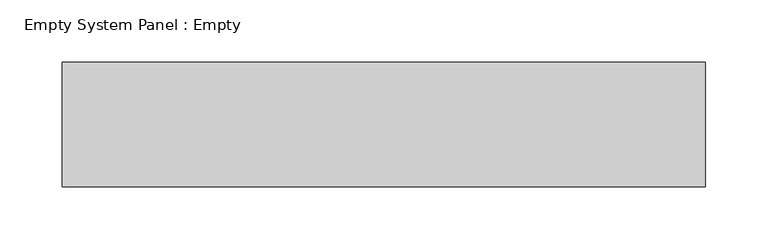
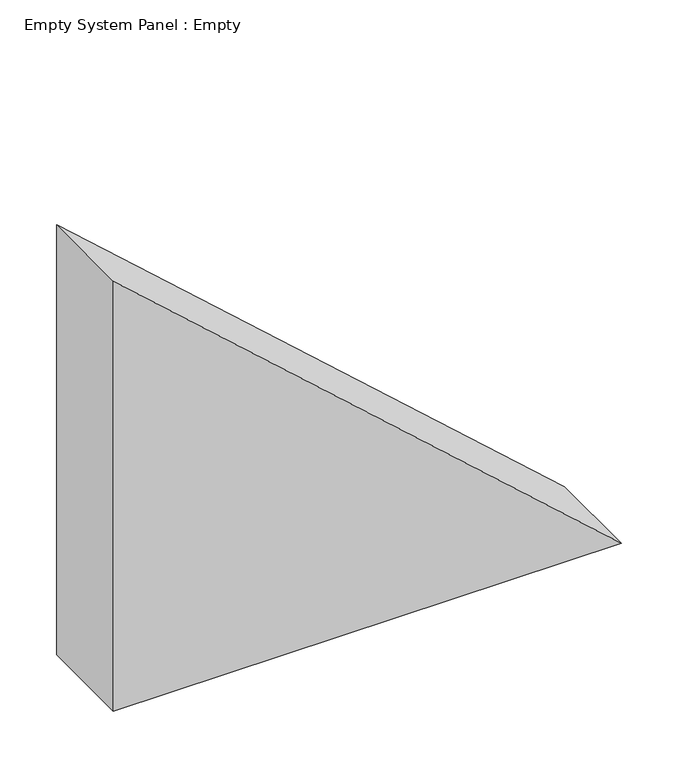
"""IFC4 building model written with IfcOpenShell, lengths in millimetres: plate geometry, Empty System Panel : Empty."""

from ifc_helpers import new_model, si_unit, frame, origin, place, context, project, spatial, polyline, outline, extrude, source, transform, mapped, element, save


def empty_system_panel_empty_ff032f08(model_context):
    return source(origin(), model_context, "Body", "SweptSolid", [
        extrude(outline(polyline([(0.0, -258.7446431), (0.0, 258.7446431), (462.9024974, -258.7446431), (0.0, -258.7446431)])), frame((0.0, -50.0, 0.0), z_axis=(0.0, 1.0, 0.0), x_axis=(0.0, 0.0, 1.0)), (0.0, 0.0, 1.0), 100.0),
    ])


if __name__ == "__main__":
    model = new_model("IFC4")
    model_context = context("Model", 3, world=origin())
    ifc_project = project(units=[si_unit("LENGTHUNIT", "METRE", prefix="MILLI")], contexts=[model_context])
    site = spatial("IfcSite", under=ifc_project)
    building = spatial("IfcBuilding", under=site)
    placement = place(None, origin())
    empty_system_panel_empty_shape = empty_system_panel_empty_ff032f08(model_context)
    element("IfcPlate", 1, ObjectType="Empty System Panel : Empty", at=placement, inside=building, context=model_context, shape_type="MappedRepresentation", body=[
        mapped(empty_system_panel_empty_shape, transform((0.0, 0.0, 0.0), x_axis=(1.0, 0.0, 0.0), y_axis=(0.0, 1.0, 0.0), z_axis=(0.0, 0.0, 1.0))),
    ])
    save(model, "model.ifc")
